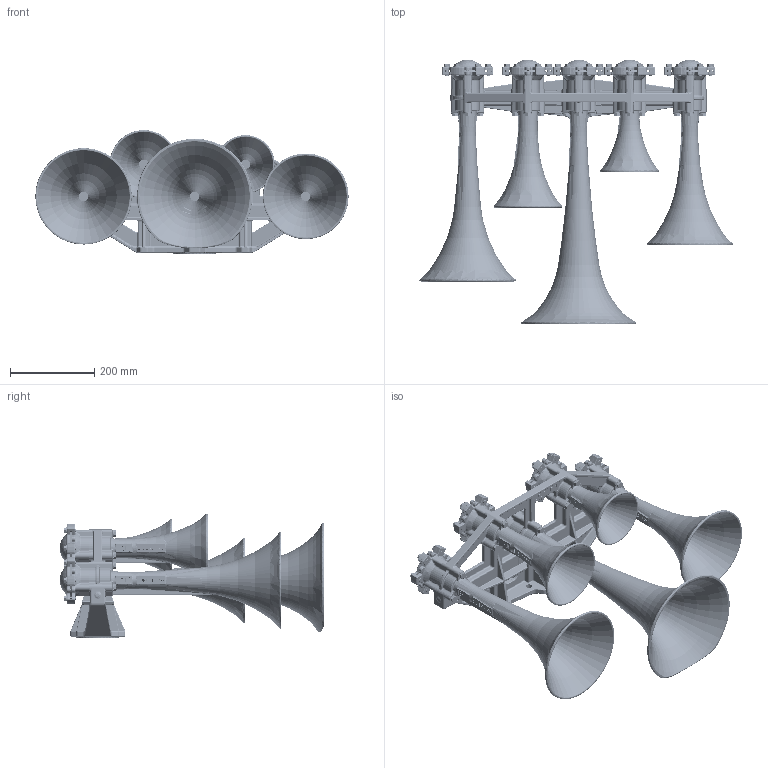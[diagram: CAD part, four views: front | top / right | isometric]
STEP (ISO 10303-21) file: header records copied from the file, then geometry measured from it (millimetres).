
FILE_DESCRIPTION(/* description */ (''),/* implementation_level */ '2;1');
FILE_NAME(/* name */ 'E:/hidden/Engineering Projects/Leslie Controls SuperTyfon/CAD/Assemblies/SuperTyfon S-5T.step',/* time_stamp */ '2022-08-18T19:39:57+10:00',/* author */ (''),/* organization */ (''),/* preprocessor_version */ 'ST-DEVELOPER v19',/* originating_system */ 'Autodesk Translation Framework v11.7.0.108',/* authorisation */ '');
FILE_SCHEMA (('AUTOMOTIVE_DESIGN { 1 0 10303 214 3 1 1 }'));
Length unit declared in the file: inch
Products named in the file (28): SuperTyfon S-5T; 24311 Gasket; #223901; #223902; #223903; #223904; #223905; #223906; #223907; #223908; #223909; #223910; #223911; #223912; #223913; #223914; #223915; 24438 Diaphragm Ring; 24437 Diaphragm; 13077 Lock Washer; 25200 Cap Screw, Back Cover; 25190 Diaphragm Ring Screw; 25202 Back Cover, Complete; 26091 Five Horn Base; Plug Weld; 10392 Lock Washer; 24503 Cap Screw, Horn; 25190 Diaphragm Housing
Assembly tree (155 placements, depth 3):
  SuperTyfon S-5T
    10392 Lock Washer  x15
    24503 Cap Screw, Horn  x15
    13077 Lock Washer  x30
    25200 Cap Screw, Back Cover  x30
    25190 Diaphragm Ring Screw  x15
    24311 Gasket  x10
    #223901
      #223902
      #223903
    #223904
      #223905
      #223906
    #223907
      #223908
      #223909
    #223910
      #223911
      #223912
    #223913
      #223914
      #223915
    24437 Diaphragm  x5
    24438 Diaphragm Ring  x5
    25202 Back Cover, Complete  x5
    26091 Five Horn Base
      Plug Weld  x4
    25190 Diaphragm Housing  x5
Bounding box: 742.95 x 627.79 x 293.69 mm (x, y, z)
Volume: 5473974.7 mm3; surface area: 2111865.2 mm2
Topology: 160 solids, 160 shells, 8585 faces, 21433 edges, 13148 vertices
Faces by surface type: plane 2734, cylinder 2277, bspline 1754, torus 873, cone 639, sphere 308
Full cylindrical faces by diameter (mm): 0.794 x10, 1.191 x45, 1.587 x5, 1.984 x2, 2.381 x1, 2.778 x1, 3.175 x46, 3.572 x5, 4.762 x10, 5.556 x15, 6.35 x10, 7.938 x65, 7.987 x5, 8.136 x10, 8.334 x10, 9.525 x60, 10.319 x45, 11.112 x15, 14.287 x17, 18.256 x1, 22.225 x5, 39.688 x5, 44.45 x5, 44.648 x20, 49.212 x5, 53.975 x5, 69.85 x5, 73.025 x5, 73.223 x5, 85.725 x5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
Entity records: 223794 total; most frequent: CARTESIAN_POINT 96252, ORIENTED_EDGE 28258, DIRECTION 23408, EDGE_CURVE 14129, AXIS2_PLACEMENT_3D 8842, VERTEX_POINT 8778, EDGE_LOOP 5907, LINE 5724
